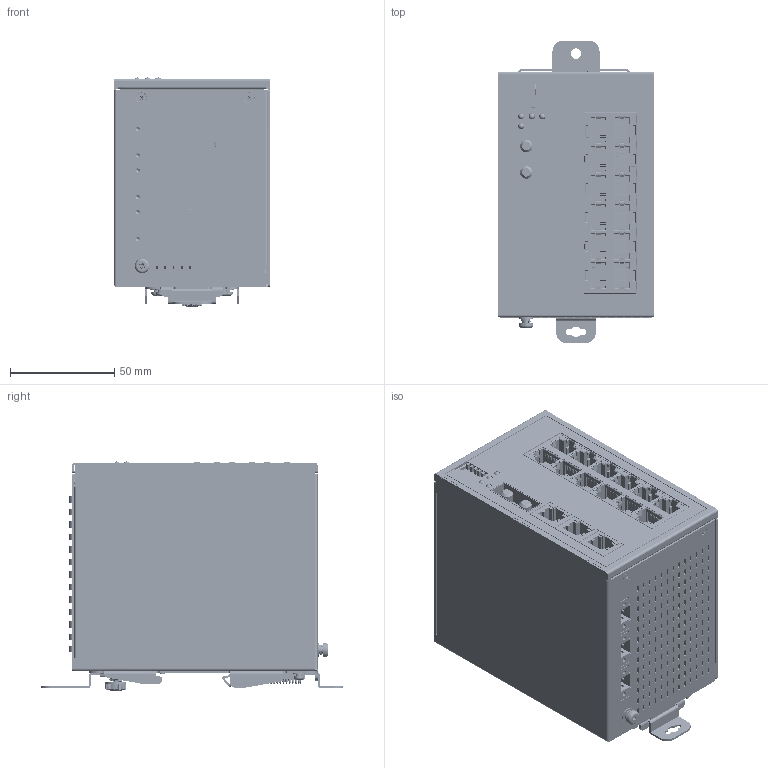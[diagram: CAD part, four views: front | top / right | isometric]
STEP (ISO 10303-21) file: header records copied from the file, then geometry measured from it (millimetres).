
FILE_DESCRIPTION((''),'2;1');
FILE_NAME('DVS-016W01-SC01-R_ASM','2014-12-08T',('ANDREW.AS.SUN'),(''),'PRO/ENGINEER BY PARAMETRIC TECHNOLOGY CORPORATION, 2010280','PRO/ENGINEER BY PARAMETRIC TECHNOLOGY CORPORATION, 2010280','');
FILE_SCHEMA(('CONFIG_CONTROL_DESIGN'));
Products named in the file (55): 3991140200_BASE; STUD_M3_0; STUD_M3_0-S; 3991140200_BASE_ASM; 3991140300_COVER; 3991140400_PANEL; PCB-M-8P; STAND_OFF_30; MSD32_MALE; TB293; DIN-SWITCH-5PIN; 1X3_G-G; 1X1_LED; OPT-155B; 307228297C-EM50188GF2NN46PF; _DVS-016W01-MC01-R_2976405902_D; PRT0001; BOT_PCB_ASSY_DVS-016W01-SC01-R_ASM; PCB-M-16P; MSD232_FEMALE; RJD5-20B; RJDX-512-1; SHANGDUAN1; SHANGDUAN2; SHANGDUAN3; SHANGDUAN4; SHANGDUAN5; SHANGDUAN6; SHANGDUAN7; SHANGDUAN8; RJDX-510-X1-D-1; RJD5-501; RJD101; UP_LED; UP_LED_LEFT; DOWN_LED; DOWN_LED_LEFT; DOWN_LED_LONG; DOWN_LED_LONG_LEFT; SHELL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
Assembly tree (153 placements, depth 4):
  DVS-016W01-SC01-R_ASM
    3991140200_BASE_ASM
      3991140200_BASE
      STUD_M3_0  x2
      STUD_M3_0-S  x2
    3991140300_COVER
    3991140400_PANEL
    BOT_PCB_ASSY_DVS-016W01-SC01-R_ASM
      PCB-M-8P
      STAND_OFF_30  x4
      MSD32_MALE
      TB293  x3
      DIN-SWITCH-5PIN
      1X3_G-G
      1X1_LED
      OPT-155B
      307228297C-EM50188GF2NN46PF  x3
      _DVS-016W01-MC01-R_2976405902_D
      PRT0001
    TOP_PCB_ASSY_DVS-016W01-SC01-R_ASM
      PCB-M-16P
      MSD232_FEMALE
      307229107C_RJ45_ASM
        RJD5-20B
        RJDX-512-1  x6
        SHANGDUAN1  x6
        SHANGDUAN2  x6
        SHANGDUAN3  x6
        SHANGDUAN4  x6
        SHANGDUAN5  x6
        SHANGDUAN6  x6
        SHANGDUAN7  x6
        SHANGDUAN8  x6
        RJDX-510-X1-D-1  x6
        RJD5-501  x6
        RJD101  x6
        UP_LED  x6
        UP_LED_LEFT  x6
        DOWN_LED  x4
        DOWN_LED_LEFT  x3
        DOWN_LED_LONG  x2
        DOWN_LED_LONG_LEFT  x3
        SHELL
      HSK
    NET8-722000A_NAMEPLATE
    3534306500_ME-KIT_ASM
      BACK_PLATE_2
      SNAP
      SPRING
      SNAP2_ASM
        SNAP_2
        46-111-501-1_20100903_
    3100320300-SCREW  x4
    3105460500  x10
    SCREW_M4
Bounding box: 75 x 145.3 x 110.12 mm (x, y, z)
Volume: 179844.7 mm3; surface area: 317717.2 mm2
Topology: 145 solids, 169 shells, 16202 faces, 44127 edges, 28314 vertices
Faces by surface type: plane 13130, cylinder 2500, bspline 299, cone 154, torus 111, sphere 8
Entity records: 330797 total; most frequent: CARTESIAN_POINT 76571, ORIENTED_EDGE 53792, DIRECTION 49792, EDGE_CURVE 26943, VECTOR 22796, LINE 22796, VERTEX_POINT 17209, AXIS2_PLACEMENT_3D 13498
